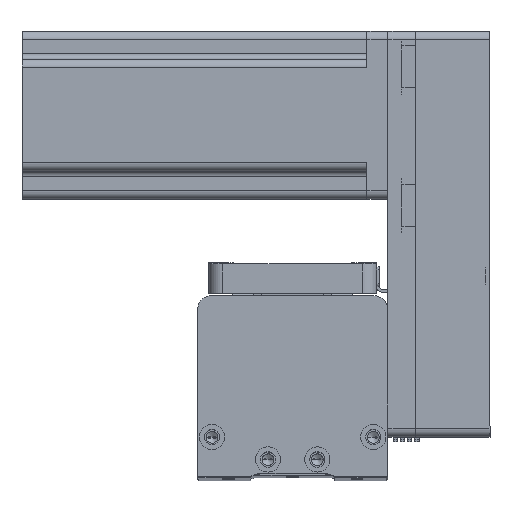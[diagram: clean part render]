
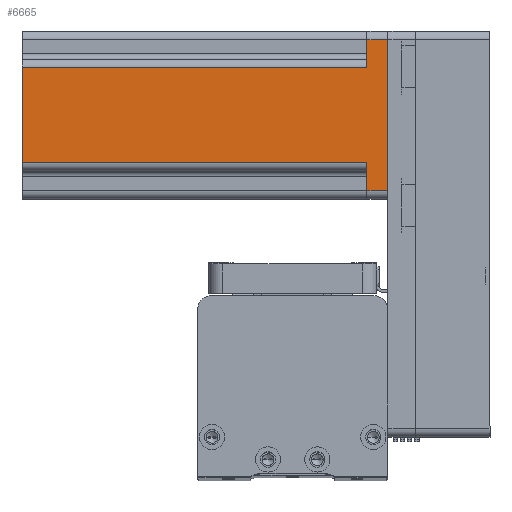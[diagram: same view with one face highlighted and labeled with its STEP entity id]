
A CAD part, top view. The second image highlights one B-rep face of the part: STEP entity #6665.
In plain terms, the highlighted planar face has unit normal (0, 0, 1) as drawn and (0, -1, 0) by its records, which use the part's own axes.
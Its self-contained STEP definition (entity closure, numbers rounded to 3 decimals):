
#662 = EDGE_CURVE ( 'NONE', #12257, #4503, #7927, .T. ) ;
#1355 = LINE ( 'NONE', #30347, #18542 ) ;
#2951 = DIRECTION ( 'NONE',  ( -1., 0., 0. ) ) ;
#3158 = CARTESIAN_POINT ( 'NONE',  ( -17., -30., 130.7 ) ) ;
#3660 = VECTOR ( 'NONE', #20105, 1000. ) ;
#4503 = VERTEX_POINT ( 'NONE', #19431 ) ;
#5825 = FACE_OUTER_BOUND ( 'NONE', #23550, .T. ) ;
#6262 = CARTESIAN_POINT ( 'NONE',  ( -20., -30., 7.5 ) ) ;
#6624 = VECTOR ( 'NONE', #40737, 1000. ) ;
#6665 = ADVANCED_FACE ( 'NONE', ( #5825 ), #22729, .F. ) ;
#7927 = LINE ( 'NONE', #10493, #17097 ) ;
#8058 = ORIENTED_EDGE ( 'NONE', *, *, #18334, .T. ) ;
#8455 = VERTEX_POINT ( 'NONE', #13722 ) ;
#9030 = EDGE_CURVE ( 'NONE', #8455, #14620, #1355, .T. ) ;
#10210 = CARTESIAN_POINT ( 'NONE',  ( -17., -30., 130.7 ) ) ;
#10493 = CARTESIAN_POINT ( 'NONE',  ( 30., -30., 0. ) ) ;
#11445 = ORIENTED_EDGE ( 'NONE', *, *, #32485, .T. ) ;
#11609 = DIRECTION ( 'NONE',  ( 0., 0., 1. ) ) ;
#12010 = VERTEX_POINT ( 'NONE', #14850 ) ;
#12257 = VERTEX_POINT ( 'NONE', #29924 ) ;
#12352 = CARTESIAN_POINT ( 'NONE',  ( -27., -30., 130.7 ) ) ;
#12805 = LINE ( 'NONE', #43171, #31025 ) ;
#13257 = DIRECTION ( 'NONE',  ( 1., 0., 0. ) ) ;
#13409 = CARTESIAN_POINT ( 'NONE',  ( 17., -30., 7.5 ) ) ;
#13500 = LINE ( 'NONE', #12352, #22623 ) ;
#13722 = CARTESIAN_POINT ( 'NONE',  ( 27., -30., 7.5 ) ) ;
#14620 = VERTEX_POINT ( 'NONE', #13409 ) ;
#14688 = CARTESIAN_POINT ( 'NONE',  ( 17., -30., 130.7 ) ) ;
#14850 = CARTESIAN_POINT ( 'NONE',  ( -17., -30., 7.5 ) ) ;
#16006 = EDGE_CURVE ( 'NONE', #18584, #12010, #43049, .T. ) ;
#16309 = VERTEX_POINT ( 'NONE', #14688 ) ;
#16892 = ORIENTED_EDGE ( 'NONE', *, *, #36804, .F. ) ;
#17097 = VECTOR ( 'NONE', #26182, 1000. ) ;
#17327 = LINE ( 'NONE', #39008, #35490 ) ;
#18334 = EDGE_CURVE ( 'NONE', #14620, #16309, #12805, .T. ) ;
#18542 = VECTOR ( 'NONE', #2951, 1000. ) ;
#18584 = VERTEX_POINT ( 'NONE', #10210 ) ;
#19113 = DIRECTION ( 'NONE',  ( 0., 0., 1. ) ) ;
#19416 = DIRECTION ( 'NONE',  ( 0., 1., 0. ) ) ;
#19431 = CARTESIAN_POINT ( 'NONE',  ( 27., -30., 0. ) ) ;
#20105 = DIRECTION ( 'NONE',  ( 1., 0., 0. ) ) ;
#22116 = ORIENTED_EDGE ( 'NONE', *, *, #41978, .T. ) ;
#22623 = VECTOR ( 'NONE', #43437, 1000. ) ;
#22729 = PLANE ( 'NONE',  #34654 ) ;
#23550 = EDGE_LOOP ( 'NONE', ( #16892, #39274, #42029, #11445, #41949, #22116, #26843, #8058 ) ) ;
#24355 = VECTOR ( 'NONE', #13257, 1000. ) ;
#26182 = DIRECTION ( 'NONE',  ( 1., 0., 0. ) ) ;
#26843 = ORIENTED_EDGE ( 'NONE', *, *, #9030, .T. ) ;
#29805 = EDGE_CURVE ( 'NONE', #34659, #12010, #32055, .T. ) ;
#29924 = CARTESIAN_POINT ( 'NONE',  ( -27., -30., 0. ) ) ;
#30347 = CARTESIAN_POINT ( 'NONE',  ( 20., -30., 7.5 ) ) ;
#31025 = VECTOR ( 'NONE', #19113, 1000. ) ;
#32055 = LINE ( 'NONE', #6262, #3660 ) ;
#32485 = EDGE_CURVE ( 'NONE', #34659, #12257, #13500, .T. ) ;
#33463 = LINE ( 'NONE', #33603, #24355 ) ;
#33603 = CARTESIAN_POINT ( 'NONE',  ( 30., -30., 130.7 ) ) ;
#34654 = AXIS2_PLACEMENT_3D ( 'NONE', #39903, #19416, #43303 ) ;
#34659 = VERTEX_POINT ( 'NONE', #40455 ) ;
#35490 = VECTOR ( 'NONE', #11609, 1000. ) ;
#36804 = EDGE_CURVE ( 'NONE', #18584, #16309, #33463, .T. ) ;
#39008 = CARTESIAN_POINT ( 'NONE',  ( 27., -30., 130.7 ) ) ;
#39274 = ORIENTED_EDGE ( 'NONE', *, *, #16006, .T. ) ;
#39903 = CARTESIAN_POINT ( 'NONE',  ( 30., -30., 130.7 ) ) ;
#40455 = CARTESIAN_POINT ( 'NONE',  ( -27., -30., 7.5 ) ) ;
#40737 = DIRECTION ( 'NONE',  ( 0., 0., -1. ) ) ;
#41949 = ORIENTED_EDGE ( 'NONE', *, *, #662, .T. ) ;
#41978 = EDGE_CURVE ( 'NONE', #4503, #8455, #17327, .T. ) ;
#42029 = ORIENTED_EDGE ( 'NONE', *, *, #29805, .F. ) ;
#43049 = LINE ( 'NONE', #3158, #6624 ) ;
#43171 = CARTESIAN_POINT ( 'NONE',  ( 17., -30., 130.7 ) ) ;
#43303 = DIRECTION ( 'NONE',  ( -1., 0., 0. ) ) ;
#43437 = DIRECTION ( 'NONE',  ( 0., 0., -1. ) ) ;
